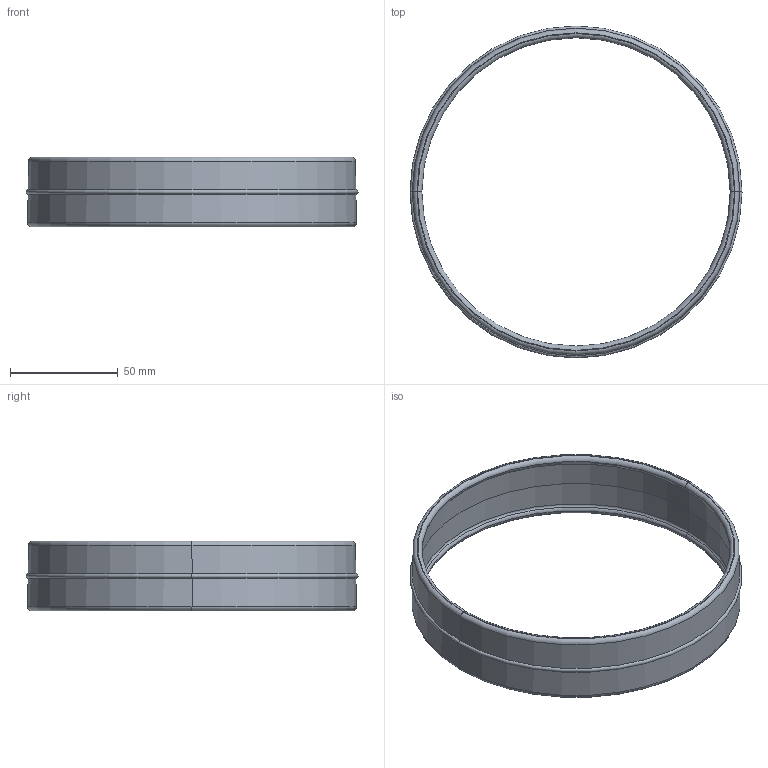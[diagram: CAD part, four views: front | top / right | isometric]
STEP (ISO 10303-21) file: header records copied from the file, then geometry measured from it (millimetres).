
FILE_DESCRIPTION (( 'STEP AP214' ), '1' );
FILE_NAME ('0538 Schutzring.STEP', '2025-03-26T11:16:47', ( '' ), ( '' ), 'SwSTEP 2.0', 'SolidWorks 2022', '' );
FILE_SCHEMA (( 'AUTOMOTIVE_DESIGN' ));
Length unit declared in the file: millimetre
Products named in the file (1): 0538 Schutzring
Bounding box: 154 x 154 x 32.4 mm (x, y, z)
Volume: 38890.3 mm3; surface area: 33993.8 mm2
Topology: 1 solids, 1 shells, 28 faces, 56 edges, 30 vertices
Faces by surface type: torus 18, cone 8, plane 2
Entity records: 1078 total; most frequent: DIRECTION 162, CARTESIAN_POINT 115, ORIENTED_EDGE 112, AXIS2_PLACEMENT_3D 77, EDGE_CURVE 56, CIRCLE 48, UNCERTAINTY_MEASURE_WITH_UNIT 31, PRESENTATION_LAYER_ASSIGNMENT 30
